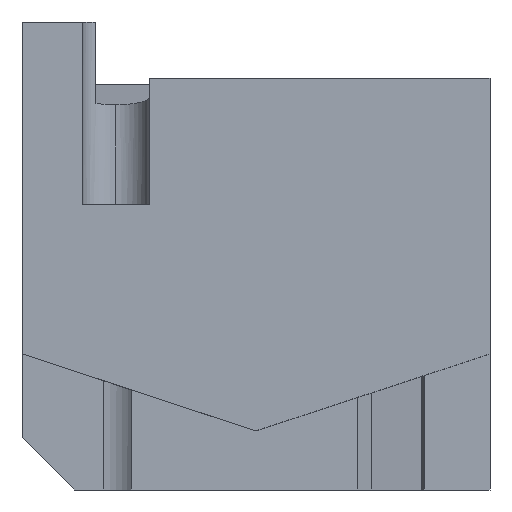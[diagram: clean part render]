
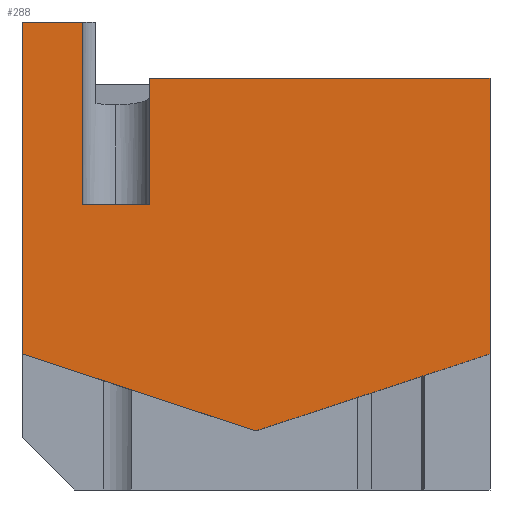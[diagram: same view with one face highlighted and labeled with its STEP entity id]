
A CAD part, left-side view. The second image highlights one B-rep face of the part: STEP entity #288.
In plain terms, the highlighted planar face has unit normal (-1, 0, 0).
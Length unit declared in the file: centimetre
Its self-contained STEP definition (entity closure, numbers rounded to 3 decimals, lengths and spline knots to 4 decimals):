
#1 = CARTESIAN_POINT ( 'NONE',  ( 0., 1000., 290.7977 ) ) ;
#31 = CARTESIAN_POINT ( 'NONE',  ( 0., 0., 880.2476 ) ) ;
#34 = EDGE_CURVE ( 'NONE', #519, #1151, #144, .T. ) ;
#144 = LINE ( 'NONE', #501, #510 ) ;
#153 = DIRECTION ( 'NONE',  ( 0., -1., 0. ) ) ;
#161 = EDGE_CURVE ( 'NONE', #609, #810, #622, .T. ) ;
#174 = LINE ( 'NONE', #612, #1051 ) ;
#201 = LINE ( 'NONE', #551, #535 ) ;
#209 = CARTESIAN_POINT ( 'NONE',  ( 0., 1000., 610.5269 ) ) ;
#248 = EDGE_LOOP ( 'NONE', ( #1122, #611, #982, #333, #252, #938, #619, #873, #576 ) ) ;
#252 = ORIENTED_EDGE ( 'NONE', *, *, #34, .T. ) ;
#288 = ADVANCED_FACE ( 'NONE', ( #302 ), #998, .F. ) ;
#289 = CARTESIAN_POINT ( 'NONE',  ( 0., 728.1746, 610.5269 ) ) ;
#302 = FACE_OUTER_BOUND ( 'NONE', #248, .T. ) ;
#305 = VECTOR ( 'NONE', #640, 100. ) ;
#328 = LINE ( 'NONE', #469, #528 ) ;
#333 = ORIENTED_EDGE ( 'NONE', *, *, #593, .F. ) ;
#340 = EDGE_CURVE ( 'NONE', #360, #866, #328, .T. ) ;
#360 = VERTEX_POINT ( 'NONE', #289 ) ;
#374 = EDGE_CURVE ( 'NONE', #866, #1097, #413, .T. ) ;
#385 = DIRECTION ( 'NONE',  ( 0., -1., 0. ) ) ;
#395 = CARTESIAN_POINT ( 'NONE',  ( 0., 0., 290.7977 ) ) ;
#413 = LINE ( 'NONE', #680, #1032 ) ;
#461 = LINE ( 'NONE', #1160, #305 ) ;
#466 = DIRECTION ( 'NONE',  ( 0., 0., -1. ) ) ;
#469 = CARTESIAN_POINT ( 'NONE',  ( 0., 728.1746, 610.5269 ) ) ;
#501 = CARTESIAN_POINT ( 'NONE',  ( 0., 871.5138, 610.5269 ) ) ;
#510 = VECTOR ( 'NONE', #589, 100. ) ;
#519 = VERTEX_POINT ( 'NONE', #1135 ) ;
#528 = VECTOR ( 'NONE', #549, 100. ) ;
#535 = VECTOR ( 'NONE', #466, 100. ) ;
#549 = DIRECTION ( 'NONE',  ( 0., 0., 1. ) ) ;
#551 = CARTESIAN_POINT ( 'NONE',  ( 0., 0., 1000. ) ) ;
#560 = DIRECTION ( 'NONE',  ( 0., 0., -1. ) ) ;
#576 = ORIENTED_EDGE ( 'NONE', *, *, #1057, .F. ) ;
#589 = DIRECTION ( 'NONE',  ( 0., 0., 1. ) ) ;
#593 = EDGE_CURVE ( 'NONE', #519, #360, #921, .T. ) ;
#598 = VERTEX_POINT ( 'NONE', #1085 ) ;
#609 = VERTEX_POINT ( 'NONE', #827 ) ;
#611 = ORIENTED_EDGE ( 'NONE', *, *, #374, .F. ) ;
#612 = CARTESIAN_POINT ( 'NONE',  ( 0., 1000., 1000. ) ) ;
#619 = ORIENTED_EDGE ( 'NONE', *, *, #985, .T. ) ;
#622 = LINE ( 'NONE', #1, #1105 ) ;
#627 = DIRECTION ( 'NONE',  ( 0., 0.95, 0.312 ) ) ;
#640 = DIRECTION ( 'NONE',  ( 0., 0.95, -0.312 ) ) ;
#670 = CARTESIAN_POINT ( 'NONE',  ( 0., 871.5138, 1000. ) ) ;
#680 = CARTESIAN_POINT ( 'NONE',  ( 0., 842.0857, 880.2476 ) ) ;
#702 = AXIS2_PLACEMENT_3D ( 'NONE', #1088, #767, #560 ) ;
#718 = VECTOR ( 'NONE', #981, 100. ) ;
#734 = VERTEX_POINT ( 'NONE', #395 ) ;
#767 = DIRECTION ( 'NONE',  ( 1., 0., 0. ) ) ;
#810 = VERTEX_POINT ( 'NONE', #932 ) ;
#820 = CARTESIAN_POINT ( 'NONE',  ( 0., 1000., 1000. ) ) ;
#827 = CARTESIAN_POINT ( 'NONE',  ( 0., 500., 126.4556 ) ) ;
#845 = EDGE_CURVE ( 'NONE', #598, #1151, #174, .T. ) ;
#866 = VERTEX_POINT ( 'NONE', #1128 ) ;
#873 = ORIENTED_EDGE ( 'NONE', *, *, #161, .F. ) ;
#921 = LINE ( 'NONE', #209, #1004 ) ;
#932 = CARTESIAN_POINT ( 'NONE',  ( 0., 1000., 290.7977 ) ) ;
#938 = ORIENTED_EDGE ( 'NONE', *, *, #845, .F. ) ;
#981 = DIRECTION ( 'NONE',  ( 0., 0., -1. ) ) ;
#982 = ORIENTED_EDGE ( 'NONE', *, *, #340, .F. ) ;
#985 = EDGE_CURVE ( 'NONE', #598, #810, #988, .T. ) ;
#988 = LINE ( 'NONE', #820, #718 ) ;
#996 = DIRECTION ( 'NONE',  ( 0., -1., 0. ) ) ;
#998 = PLANE ( 'NONE',  #702 ) ;
#1004 = VECTOR ( 'NONE', #996, 100. ) ;
#1032 = VECTOR ( 'NONE', #385, 100. ) ;
#1051 = VECTOR ( 'NONE', #153, 100. ) ;
#1057 = EDGE_CURVE ( 'NONE', #734, #609, #461, .T. ) ;
#1061 = EDGE_CURVE ( 'NONE', #1097, #734, #201, .T. ) ;
#1085 = CARTESIAN_POINT ( 'NONE',  ( 0., 1000., 1000. ) ) ;
#1088 = CARTESIAN_POINT ( 'NONE',  ( 0., 1000., 1000. ) ) ;
#1097 = VERTEX_POINT ( 'NONE', #31 ) ;
#1105 = VECTOR ( 'NONE', #627, 100. ) ;
#1122 = ORIENTED_EDGE ( 'NONE', *, *, #1061, .F. ) ;
#1128 = CARTESIAN_POINT ( 'NONE',  ( 0., 728.1746, 880.2476 ) ) ;
#1135 = CARTESIAN_POINT ( 'NONE',  ( 0., 871.5138, 610.5269 ) ) ;
#1151 = VERTEX_POINT ( 'NONE', #670 ) ;
#1160 = CARTESIAN_POINT ( 'NONE',  ( 0., 500., 126.4556 ) ) ;
